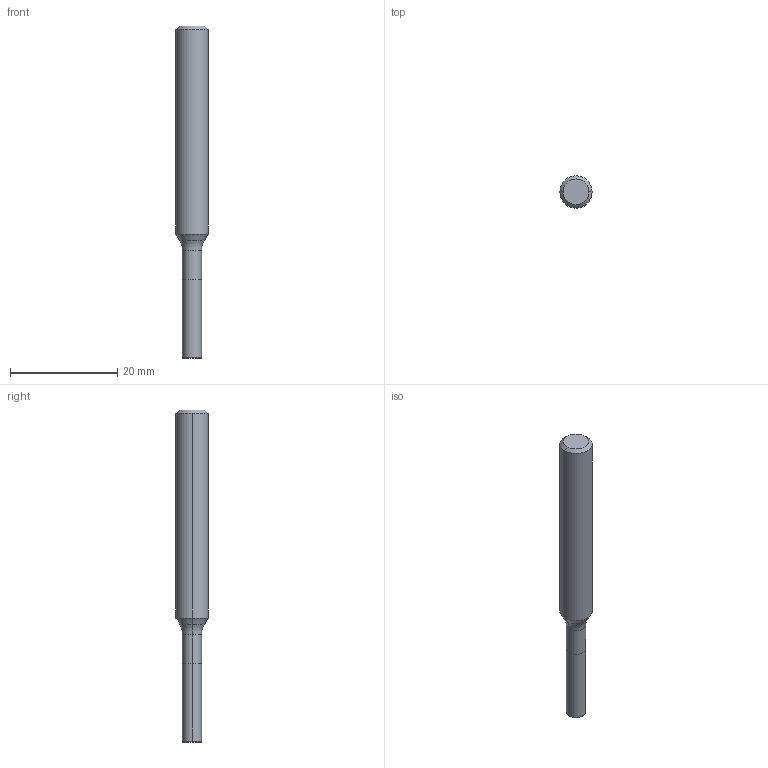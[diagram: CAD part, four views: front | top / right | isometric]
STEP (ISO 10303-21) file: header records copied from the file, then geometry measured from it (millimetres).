
FILE_DESCRIPTION (( 'STEP AP214' ), '1' );
FILE_NAME ('817.036.00_3D-model.step', '2022-02-23T23:04:33', ( '' ), ( '' ), 'SwSTEP 2.0', 'SolidWorks 2020', '' );
FILE_SCHEMA (( 'AUTOMOTIVE_DESIGN' ));
Length unit declared in the file: millimetre
Products named in the file (3): CUT-3D^Baugr14; NOCUT-3D^Baugr14; 817.036.00_3D-model
Assembly tree (2 placements, depth 2):
  817.036.00_3D-model
    CUT-3D^Baugr14
    NOCUT-3D^Baugr14
Bounding box: 6 x 6 x 62 mm (x, y, z)
Volume: 1349.2 mm3; surface area: 1057.6 mm2
Topology: 2 solids, 2 shells, 18 faces, 32 edges, 18 vertices
Faces by surface type: cylinder 6, cone 6, plane 4, torus 2
Entity records: 558 total; most frequent: DIRECTION 104, CARTESIAN_POINT 76, ORIENTED_EDGE 64, AXIS2_PLACEMENT_3D 46, EDGE_CURVE 32, CIRCLE 20, ADVANCED_FACE 18, EDGE_LOOP 18
